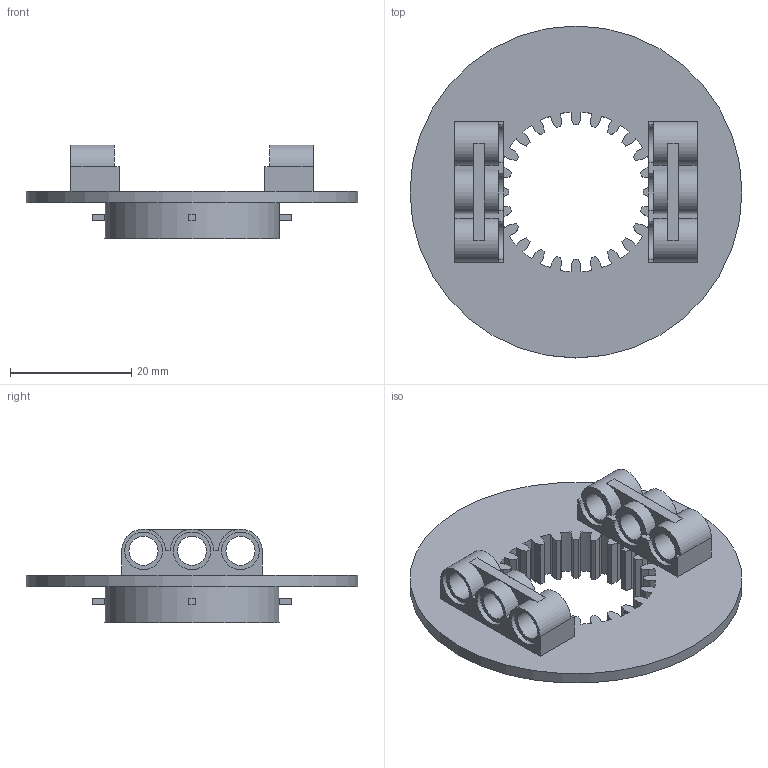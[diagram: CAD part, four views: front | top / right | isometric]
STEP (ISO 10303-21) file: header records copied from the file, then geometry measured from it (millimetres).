
FILE_DESCRIPTION(/* description */ ('Unknown'),/* implementation_level */ '2;1');
FILE_NAME(/* name */ 'ClGray_4624645_a)_JCA',/* time_stamp */ '2025-07-21T23:57:42+02:00',/* author */ ('Unknown'),/* organization */ ('Unknown'),/* preprocessor_version */ 'ST-DEVELOPER v19.4',/* originating_system */ 'Solid Edge',/* authorisation */ 'Unknown');
FILE_SCHEMA (('AUTOMOTIVE_DESIGN {1 0 10303 214 3 1 1}'));
Length unit declared in the file: millimetre
Products named in the file (1): ClGray_4624645_a)_JCA
Bounding box: 54.8 x 54.8 x 15.5 mm (x, y, z)
Volume: 6131.8 mm3; surface area: 7416.5 mm2
Topology: 1 solids, 1 shells, 251 faces, 705 edges, 466 vertices
Faces by surface type: plane 171, cylinder 80
Full cylindrical faces by diameter (mm): 4.8 x6, 6.2 x6, 28.8 x1, 54.8 x1
Entity records: 7944 total; most frequent: CARTESIAN_POINT 1380, DIRECTION 1364, ORIENTED_EDGE 1352, EDGE_CURVE 676, LINE 492, VECTOR 492, VERTEX_POINT 452, AXIS2_PLACEMENT_3D 436
